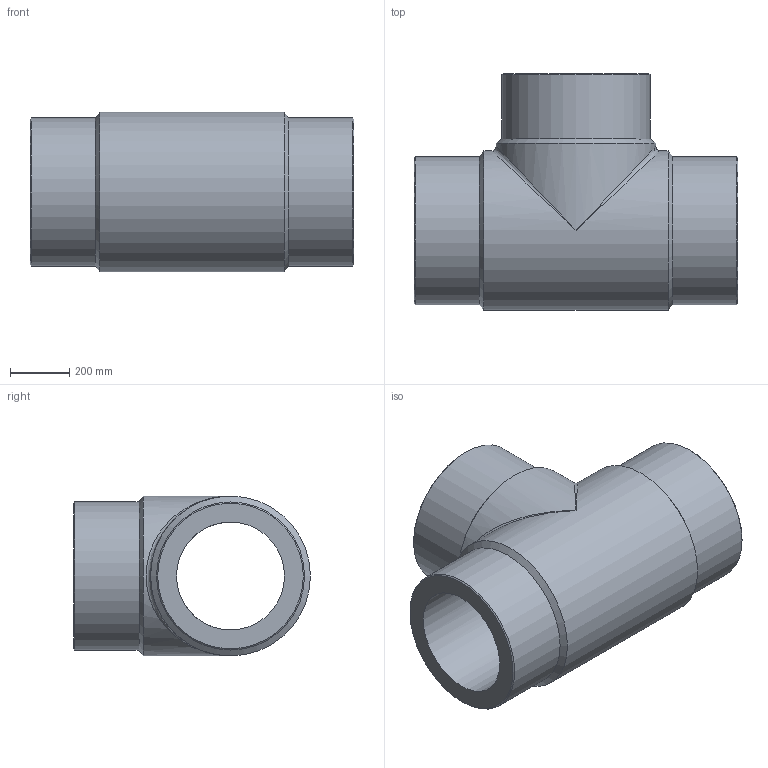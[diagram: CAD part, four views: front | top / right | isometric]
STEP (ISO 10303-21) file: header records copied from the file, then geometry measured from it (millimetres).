
FILE_DESCRIPTION(/* description */ ('Unknown'),/* implementation_level */ '2;1');
FILE_NAME(/* name */ 'TP500H',/* time_stamp */ '2022-06-06T16:49:59+02:00',/* author */ ('Unknown'),/* organization */ ('Unknown'),/* preprocessor_version */ 'ST-DEVELOPER v18.102',/* originating_system */ 'Solid Edge',/* authorisation */ 'Unknown');
FILE_SCHEMA (('AUTOMOTIVE_DESIGN {1 0 10303 214 3 1 1}'));
Length unit declared in the file: millimetre
Products named in the file (1): TP500H
Bounding box: 1094 x 800 x 540 mm (x, y, z)
Volume: 143474761.2 mm3; surface area: 3989895.5 mm2
Topology: 1 solids, 1 shells, 18 faces, 44 edges, 23 vertices
Faces by surface type: cylinder 7, cone 6, plane 3, bspline 2
Full cylindrical faces by diameter (mm): 364.8 x2, 500 x3, 540 x2
Entity records: 528 total; most frequent: CARTESIAN_POINT 171, DIRECTION 76, ORIENTED_EDGE 42, AXIS2_PLACEMENT_3D 38, EDGE_LOOP 36, FACE_BOUND 36, EDGE_CURVE 21, VERTEX_POINT 19
